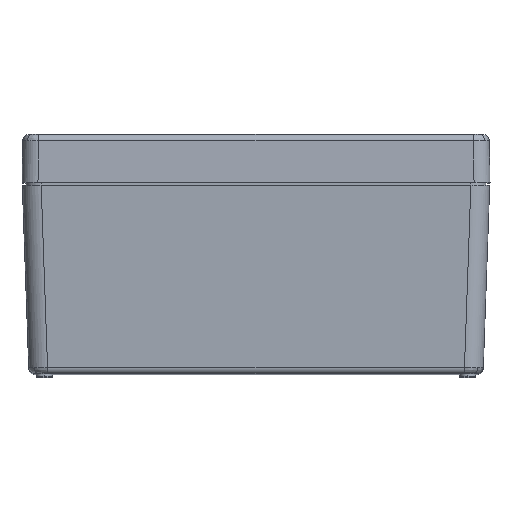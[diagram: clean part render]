
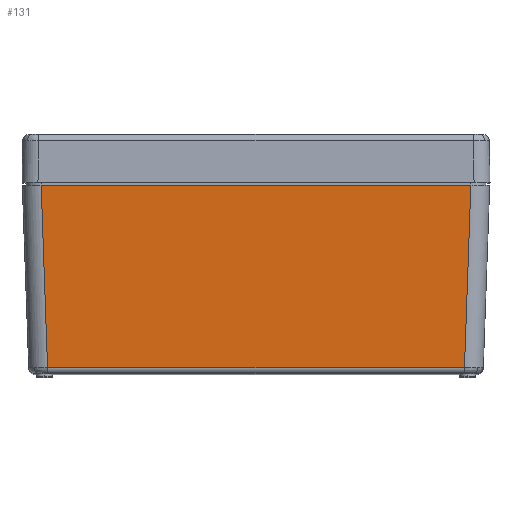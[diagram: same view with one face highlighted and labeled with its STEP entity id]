
A CAD part, top view. The second image highlights one B-rep face of the part: STEP entity #131.
In plain terms, the highlighted planar face has unit normal (0, -0.035, 0.999).
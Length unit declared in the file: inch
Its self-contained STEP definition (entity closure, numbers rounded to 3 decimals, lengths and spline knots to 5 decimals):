
#131 = ADVANCED_FACE ( 'NONE', ( #1847 ), #13502, .T. ) ;
#636 = VERTEX_POINT ( 'NONE', #824 ) ;
#773 = CARTESIAN_POINT ( 'NONE',  ( -2.64773, -0.19303, 3.6594 ) ) ;
#824 = CARTESIAN_POINT ( 'NONE',  ( -2.65132, -0.09016, 3.66299 ) ) ;
#978 = EDGE_CURVE ( 'NONE', #8650, #3521, #10684, .T. ) ;
#1729 = LINE ( 'NONE', #6359, #12438 ) ;
#1847 = FACE_OUTER_BOUND ( 'NONE', #5395, .T. ) ;
#2537 = VECTOR ( 'NONE', #9216, 39.37008 ) ;
#3185 = DIRECTION ( 'NONE',  ( 1., 0., 0. ) ) ;
#3297 = LINE ( 'NONE', #5626, #5929 ) ;
#3521 = VERTEX_POINT ( 'NONE', #12819 ) ;
#4170 = ORIENTED_EDGE ( 'NONE', *, *, #10571, .T. ) ;
#5395 = EDGE_LOOP ( 'NONE', ( #16115, #4170, #7871, #12565 ) ) ;
#5622 = CARTESIAN_POINT ( 'NONE',  ( 2.88661, 0., 3.66614 ) ) ;
#5626 = CARTESIAN_POINT ( 'NONE',  ( 2.88661, -0.09016, 3.66299 ) ) ;
#5691 = DIRECTION ( 'NONE',  ( 0.035, -0.999, -0.035 ) ) ;
#5929 = VECTOR ( 'NONE', #9388, 39.37008 ) ;
#6359 = CARTESIAN_POINT ( 'NONE',  ( 2.88661, -2.34054, 3.58441 ) ) ;
#7202 = EDGE_CURVE ( 'NONE', #636, #13416, #13593, .T. ) ;
#7786 = AXIS2_PLACEMENT_3D ( 'NONE', #5622, #14687, #7910 ) ;
#7871 = ORIENTED_EDGE ( 'NONE', *, *, #978, .T. ) ;
#7910 = DIRECTION ( 'NONE',  ( 0., -0.999, -0.035 ) ) ;
#8650 = VERTEX_POINT ( 'NONE', #12244 ) ;
#9216 = DIRECTION ( 'NONE',  ( 0.035, 0.999, 0.035 ) ) ;
#9388 = DIRECTION ( 'NONE',  ( -1., 0., 0. ) ) ;
#9913 = CARTESIAN_POINT ( 'NONE',  ( -2.57274, -2.34054, 3.58441 ) ) ;
#10571 = EDGE_CURVE ( 'NONE', #13416, #8650, #1729, .T. ) ;
#10684 = LINE ( 'NONE', #11871, #2537 ) ;
#11259 = EDGE_CURVE ( 'NONE', #3521, #636, #3297, .T. ) ;
#11871 = CARTESIAN_POINT ( 'NONE',  ( 2.65475, 0.00809, 3.66642 ) ) ;
#12244 = CARTESIAN_POINT ( 'NONE',  ( 2.57274, -2.34054, 3.58441 ) ) ;
#12438 = VECTOR ( 'NONE', #3185, 39.37008 ) ;
#12565 = ORIENTED_EDGE ( 'NONE', *, *, #11259, .T. ) ;
#12819 = CARTESIAN_POINT ( 'NONE',  ( 2.65132, -0.09016, 3.66299 ) ) ;
#13416 = VERTEX_POINT ( 'NONE', #9913 ) ;
#13502 = PLANE ( 'NONE',  #7786 ) ;
#13593 = LINE ( 'NONE', #773, #17303 ) ;
#14687 = DIRECTION ( 'NONE',  ( 0., -0.035, 0.999 ) ) ;
#16115 = ORIENTED_EDGE ( 'NONE', *, *, #7202, .T. ) ;
#17303 = VECTOR ( 'NONE', #5691, 39.37008 ) ;
